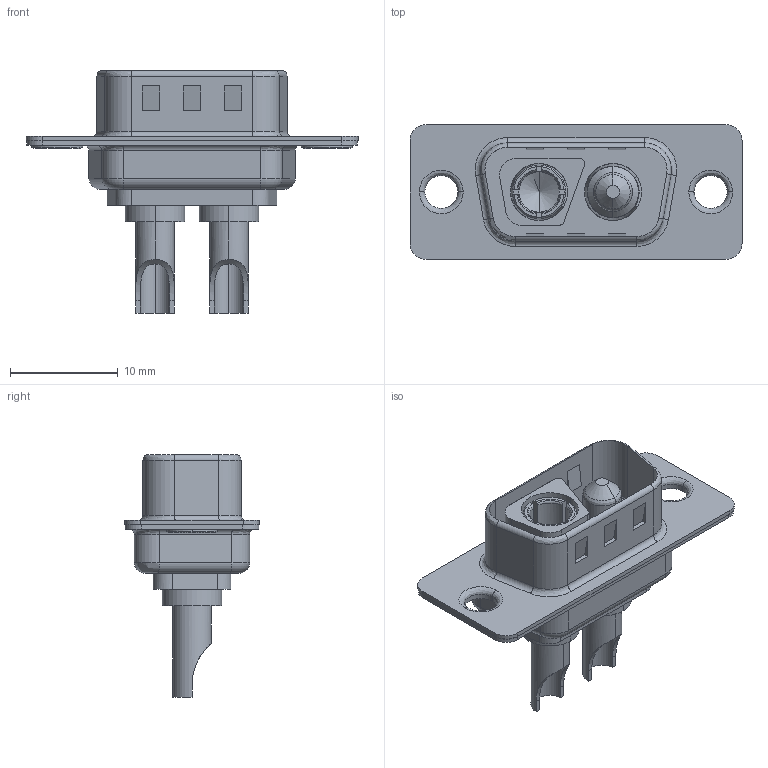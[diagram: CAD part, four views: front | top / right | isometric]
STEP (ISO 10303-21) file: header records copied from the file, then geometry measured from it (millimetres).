
FILE_DESCRIPTION (( 'STEP AP203' ), '1' );
FILE_NAME ('680M2W2K103L201.STEP', '2025-08-22T14:16:01', ( '' ), ( '' ), 'SwSTEP 2.0', 'SolidWorks 2020', '' );
FILE_SCHEMA (( 'CONFIG_CONTROL_DESIGN' ));
Length unit declared in the file: millimetre
Products named in the file (1): 680M2W2K103L201
Bounding box: 30.8 x 12.5 x 22.5 mm (x, y, z)
Surface area: 3899.4 mm2 (no closed solid volume)
Topology: 0 solids, 7 shells, 350 faces, 856 edges, 523 vertices
Faces by surface type: plane 144, cylinder 134, bspline 38, cone 24, torus 10
Entity records: 10976 total; most frequent: CARTESIAN_POINT 2996, ORIENTED_EDGE 1664, DIRECTION 1604, EDGE_CURVE 846, AXIS2_PLACEMENT_3D 627, VERTEX_POINT 523, EDGE_LOOP 392, FACE_OUTER_BOUND 350
